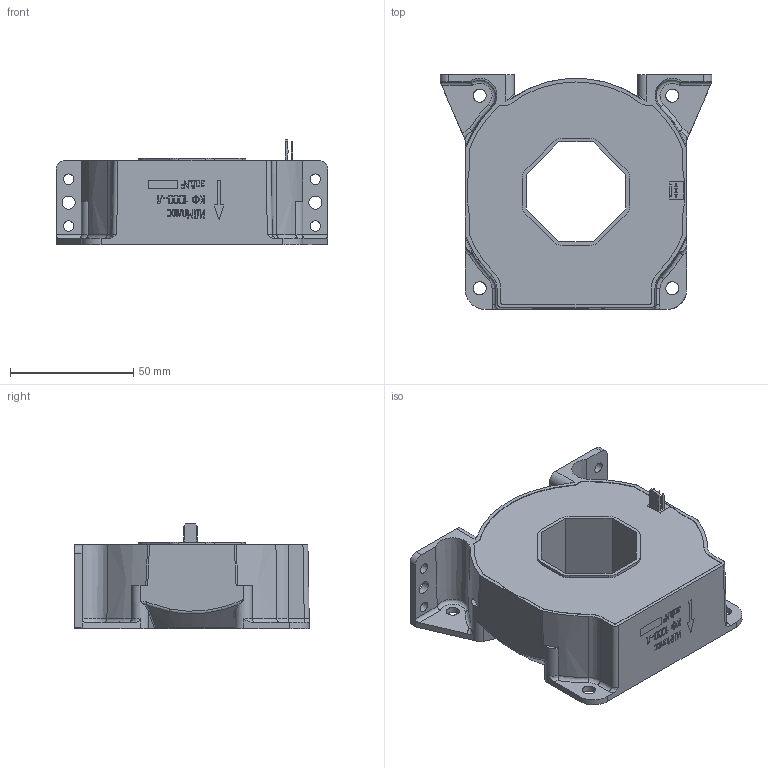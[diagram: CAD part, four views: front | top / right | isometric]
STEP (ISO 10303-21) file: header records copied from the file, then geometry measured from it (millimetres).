
FILE_DESCRIPTION (( 'STEP AP214' ), '1' );
FILE_NAME ('ﾄﾌﾘﾊ.411113.028 ﾊﾔ 1000-ﾋ.STEP', '2024-08-12T09:15:17', ( '' ), ( '' ), 'SwSTEP 2.0', 'SolidWorks 2022', '' );
FILE_SCHEMA (( 'AUTOMOTIVE_DESIGN' ));
Length unit declared in the file: millimetre
Products named in the file (3): Molex_3_p; Корпус КФ 1000-Л залитый; ДМШК.411113.028 КФ 1000-Л
Assembly tree (2 placements, depth 2):
  ДМШК.411113.028 КФ 1000-Л
    Корпус КФ 1000-Л залитый
    Molex_3_p
Bounding box: 110 x 95.09 x 42.6 mm (x, y, z)
Volume: 205911 mm3; surface area: 35279.6 mm2
Topology: 2 solids, 2 shells, 850 faces, 2359 edges, 1564 vertices
Faces by surface type: plane 388, bspline 374, cylinder 60, cone 28
Full cylindrical faces by diameter (mm): 2.25 x4, 3 x4, 4.2 x4, 5.3 x6
Entity records: 47984 total; most frequent: CARTESIAN_POINT 29016, ORIENTED_EDGE 4666, DIRECTION 2504, EDGE_CURVE 2333, VERTEX_POINT 1560, LINE 1302, VECTOR 1302, EDGE_LOOP 945
